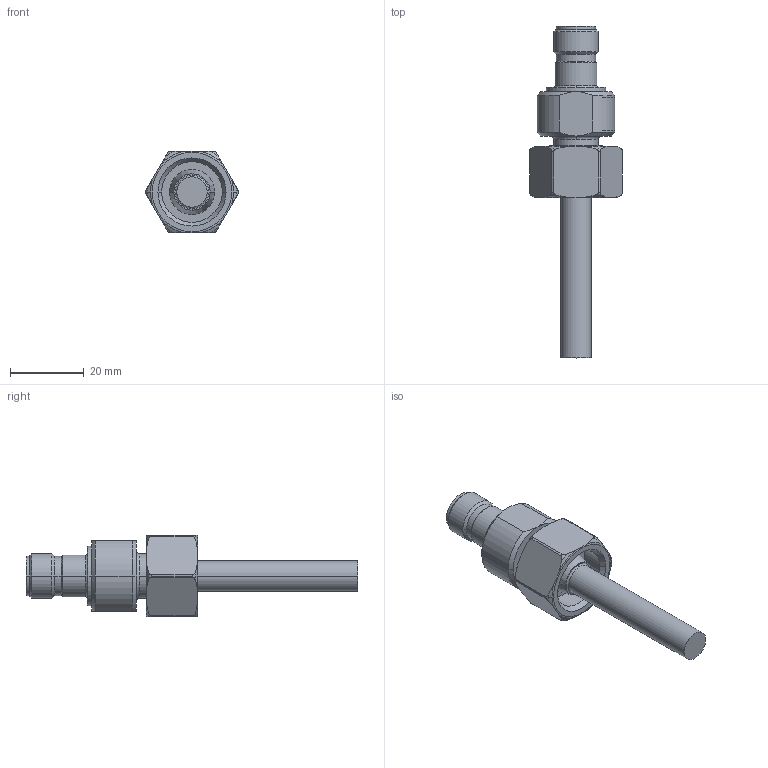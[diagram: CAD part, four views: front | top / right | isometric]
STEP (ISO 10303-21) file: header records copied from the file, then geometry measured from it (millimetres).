
FILE_DESCRIPTION( ( '' ), '1' );
FILE_NAME( '//partserver002.servicenet/client_exchange/iodir/jobs/output/wkb6703421_no0/STEP/tm9550_2_03.stp', '2007-04-02T06:26:00', ( '' ), ( '' ), ' ', ' ', ' ' );
FILE_SCHEMA( ( 'CONFIG_CONTROL_DESIGN' ) );
Length unit declared in the file: millimetre
Products named in the file (1): 1
Bounding box: 25.09 x 89.75 x 22 mm (x, y, z)
Volume: 12976.8 mm3; surface area: 5779.9 mm2
Topology: 1 solids, 1 shells, 124 faces, 320 edges, 208 vertices
Faces by surface type: cone 36, cylinder 34, torus 27, plane 27
Entity records: 4415 total; most frequent: CARTESIAN_POINT 1359, DIRECTION 665, ORIENTED_EDGE 640, EDGE_CURVE 320, AXIS2_PLACEMENT_3D 294, VERTEX_POINT 208, CIRCLE 169, EDGE_LOOP 134
